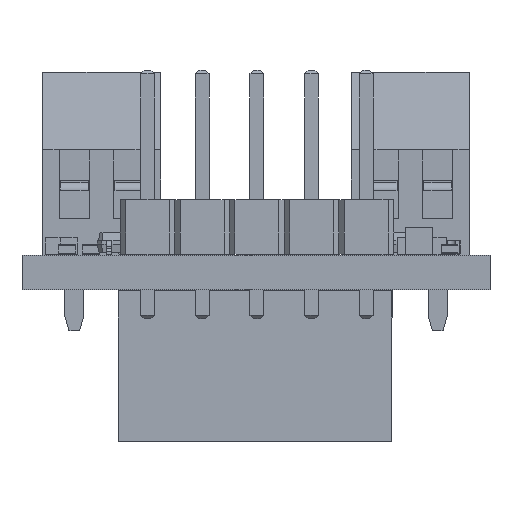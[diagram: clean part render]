
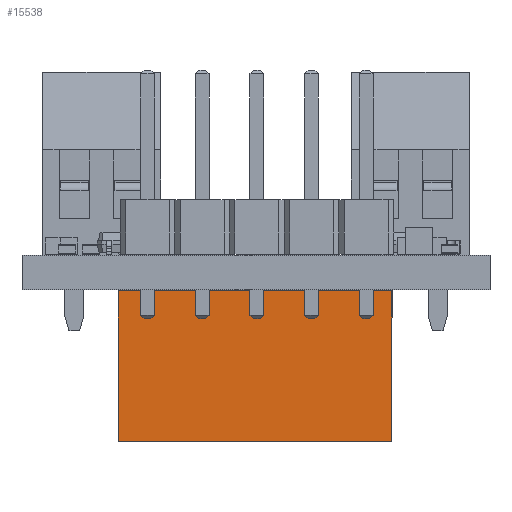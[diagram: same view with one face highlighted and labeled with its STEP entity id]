
A CAD part, front view. The second image highlights one B-rep face of the part: STEP entity #15538.
In plain terms, the highlighted planar face has unit normal (0, -1, 0) as drawn and (1, 0, 0) by its records, which use the part's own axes.
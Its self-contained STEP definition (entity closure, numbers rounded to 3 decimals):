
#15538 = ADVANCED_FACE('',(#15539),#15553,.F.);
#15539 = FACE_BOUND('',#15540,.F.);
#15540 = EDGE_LOOP('',(#15541,#15576,#15604,#15632));
#15541 = ORIENTED_EDGE('',*,*,#15542,.T.);
#15542 = EDGE_CURVE('',#15543,#15545,#15547,.T.);
#15543 = VERTEX_POINT('',#15544);
#15544 = CARTESIAN_POINT('',(1.27,-11.43,0.));
#15545 = VERTEX_POINT('',#15546);
#15546 = CARTESIAN_POINT('',(1.27,-11.43,7.));
#15547 = SURFACE_CURVE('',#15548,(#15552,#15564),.PCURVE_S1.);
#15548 = LINE('',#15549,#15550);
#15549 = CARTESIAN_POINT('',(1.27,-11.43,0.));
#15550 = VECTOR('',#15551,1.);
#15551 = DIRECTION('',(0.,0.,1.));
#15552 = PCURVE('',#15553,#15558);
#15553 = PLANE('',#15554);
#15554 = AXIS2_PLACEMENT_3D('',#15555,#15556,#15557);
#15555 = CARTESIAN_POINT('',(1.27,-11.43,0.));
#15556 = DIRECTION('',(-1.,0.,0.));
#15557 = DIRECTION('',(0.,1.,0.));
#15558 = DEFINITIONAL_REPRESENTATION('',(#15559),#15563);
#15559 = LINE('',#15560,#15561);
#15560 = CARTESIAN_POINT('',(0.,0.));
#15561 = VECTOR('',#15562,1.);
#15562 = DIRECTION('',(0.,-1.));
#15563 = ( GEOMETRIC_REPRESENTATION_CONTEXT(2) 
PARAMETRIC_REPRESENTATION_CONTEXT() REPRESENTATION_CONTEXT('2D SPACE',''
  ) );
#15564 = PCURVE('',#15565,#15570);
#15565 = PLANE('',#15566);
#15566 = AXIS2_PLACEMENT_3D('',#15567,#15568,#15569);
#15567 = CARTESIAN_POINT('',(-3.81,-11.43,0.));
#15568 = DIRECTION('',(0.,1.,0.));
#15569 = DIRECTION('',(1.,0.,0.));
#15570 = DEFINITIONAL_REPRESENTATION('',(#15571),#15575);
#15571 = LINE('',#15572,#15573);
#15572 = CARTESIAN_POINT('',(5.08,0.));
#15573 = VECTOR('',#15574,1.);
#15574 = DIRECTION('',(0.,-1.));
#15575 = ( GEOMETRIC_REPRESENTATION_CONTEXT(2) 
PARAMETRIC_REPRESENTATION_CONTEXT() REPRESENTATION_CONTEXT('2D SPACE',''
  ) );
#15576 = ORIENTED_EDGE('',*,*,#15577,.T.);
#15577 = EDGE_CURVE('',#15545,#15578,#15580,.T.);
#15578 = VERTEX_POINT('',#15579);
#15579 = CARTESIAN_POINT('',(1.27,1.27,7.));
#15580 = SURFACE_CURVE('',#15581,(#15585,#15592),.PCURVE_S1.);
#15581 = LINE('',#15582,#15583);
#15582 = CARTESIAN_POINT('',(1.27,-11.43,7.));
#15583 = VECTOR('',#15584,1.);
#15584 = DIRECTION('',(0.,1.,0.));
#15585 = PCURVE('',#15553,#15586);
#15586 = DEFINITIONAL_REPRESENTATION('',(#15587),#15591);
#15587 = LINE('',#15588,#15589);
#15588 = CARTESIAN_POINT('',(0.,-7.));
#15589 = VECTOR('',#15590,1.);
#15590 = DIRECTION('',(1.,0.));
#15591 = ( GEOMETRIC_REPRESENTATION_CONTEXT(2) 
PARAMETRIC_REPRESENTATION_CONTEXT() REPRESENTATION_CONTEXT('2D SPACE',''
  ) );
#15592 = PCURVE('',#15593,#15598);
#15593 = PLANE('',#15594);
#15594 = AXIS2_PLACEMENT_3D('',#15595,#15596,#15597);
#15595 = CARTESIAN_POINT('',(1.27,-11.43,7.));
#15596 = DIRECTION('',(0.,0.,-1.));
#15597 = DIRECTION('',(0.,-1.,0.));
#15598 = DEFINITIONAL_REPRESENTATION('',(#15599),#15603);
#15599 = LINE('',#15600,#15601);
#15600 = CARTESIAN_POINT('',(0.,0.));
#15601 = VECTOR('',#15602,1.);
#15602 = DIRECTION('',(-1.,0.));
#15603 = ( GEOMETRIC_REPRESENTATION_CONTEXT(2) 
PARAMETRIC_REPRESENTATION_CONTEXT() REPRESENTATION_CONTEXT('2D SPACE',''
  ) );
#15604 = ORIENTED_EDGE('',*,*,#15605,.F.);
#15605 = EDGE_CURVE('',#15606,#15578,#15608,.T.);
#15606 = VERTEX_POINT('',#15607);
#15607 = CARTESIAN_POINT('',(1.27,1.27,0.));
#15608 = SURFACE_CURVE('',#15609,(#15613,#15620),.PCURVE_S1.);
#15609 = LINE('',#15610,#15611);
#15610 = CARTESIAN_POINT('',(1.27,1.27,0.));
#15611 = VECTOR('',#15612,1.);
#15612 = DIRECTION('',(0.,0.,1.));
#15613 = PCURVE('',#15553,#15614);
#15614 = DEFINITIONAL_REPRESENTATION('',(#15615),#15619);
#15615 = LINE('',#15616,#15617);
#15616 = CARTESIAN_POINT('',(12.7,0.));
#15617 = VECTOR('',#15618,1.);
#15618 = DIRECTION('',(0.,-1.));
#15619 = ( GEOMETRIC_REPRESENTATION_CONTEXT(2) 
PARAMETRIC_REPRESENTATION_CONTEXT() REPRESENTATION_CONTEXT('2D SPACE',''
  ) );
#15620 = PCURVE('',#15621,#15626);
#15621 = PLANE('',#15622);
#15622 = AXIS2_PLACEMENT_3D('',#15623,#15624,#15625);
#15623 = CARTESIAN_POINT('',(1.27,1.27,0.));
#15624 = DIRECTION('',(0.,-1.,0.));
#15625 = DIRECTION('',(-1.,0.,0.));
#15626 = DEFINITIONAL_REPRESENTATION('',(#15627),#15631);
#15627 = LINE('',#15628,#15629);
#15628 = CARTESIAN_POINT('',(0.,0.));
#15629 = VECTOR('',#15630,1.);
#15630 = DIRECTION('',(0.,-1.));
#15631 = ( GEOMETRIC_REPRESENTATION_CONTEXT(2) 
PARAMETRIC_REPRESENTATION_CONTEXT() REPRESENTATION_CONTEXT('2D SPACE',''
  ) );
#15632 = ORIENTED_EDGE('',*,*,#15633,.F.);
#15633 = EDGE_CURVE('',#15543,#15606,#15634,.T.);
#15634 = SURFACE_CURVE('',#15635,(#15639,#15646),.PCURVE_S1.);
#15635 = LINE('',#15636,#15637);
#15636 = CARTESIAN_POINT('',(1.27,-11.43,0.));
#15637 = VECTOR('',#15638,1.);
#15638 = DIRECTION('',(0.,1.,0.));
#15639 = PCURVE('',#15553,#15640);
#15640 = DEFINITIONAL_REPRESENTATION('',(#15641),#15645);
#15641 = LINE('',#15642,#15643);
#15642 = CARTESIAN_POINT('',(0.,0.));
#15643 = VECTOR('',#15644,1.);
#15644 = DIRECTION('',(1.,0.));
#15645 = ( GEOMETRIC_REPRESENTATION_CONTEXT(2) 
PARAMETRIC_REPRESENTATION_CONTEXT() REPRESENTATION_CONTEXT('2D SPACE',''
  ) );
#15646 = PCURVE('',#15647,#15652);
#15647 = PLANE('',#15648);
#15648 = AXIS2_PLACEMENT_3D('',#15649,#15650,#15651);
#15649 = CARTESIAN_POINT('',(1.27,-11.43,0.));
#15650 = DIRECTION('',(0.,0.,-1.));
#15651 = DIRECTION('',(0.,-1.,0.));
#15652 = DEFINITIONAL_REPRESENTATION('',(#15653),#15657);
#15653 = LINE('',#15654,#15655);
#15654 = CARTESIAN_POINT('',(0.,0.));
#15655 = VECTOR('',#15656,1.);
#15656 = DIRECTION('',(-1.,0.));
#15657 = ( GEOMETRIC_REPRESENTATION_CONTEXT(2) 
PARAMETRIC_REPRESENTATION_CONTEXT() REPRESENTATION_CONTEXT('2D SPACE',''
  ) );
